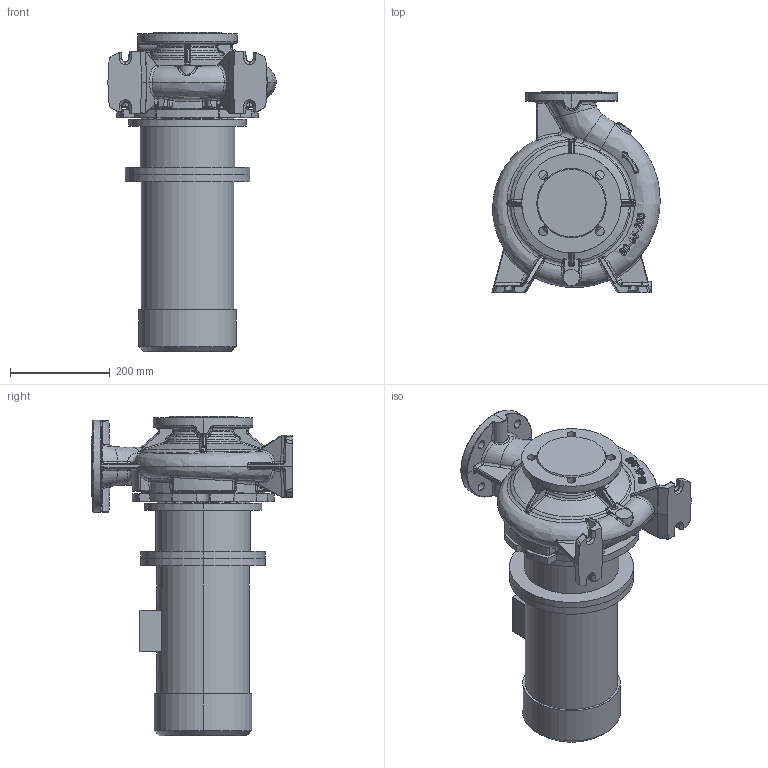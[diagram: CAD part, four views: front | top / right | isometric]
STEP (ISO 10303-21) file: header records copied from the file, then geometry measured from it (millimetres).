
FILE_DESCRIPTION (( 'STEP AP203' ), '1' );
FILE_NAME ('KRM 80-65-200-4-3.STEP', '2026-05-07T08:37:31', ( '' ), ( '' ), 'SwSTEP 2.0', 'SolidWorks 2016', '' );
FILE_SCHEMA (( 'CONFIG_CONTROL_DESIGN' ));
Length unit declared in the file: millimetre
Products named in the file (1): KRM 80-65-200-4-3
Bounding box: 338.13 x 405 x 641.3 mm (x, y, z)
Volume: 25152452.6 mm3; surface area: 1169005.8 mm2
Topology: 14 solids, 14 shells, 1152 faces, 2738 edges, 1620 vertices
Faces by surface type: bspline 552, cylinder 220, plane 200, torus 89, cone 76, sphere 15
Entity records: 71294 total; most frequent: CARTESIAN_POINT 48938, ORIENTED_EDGE 5440, DIRECTION 3583, EDGE_CURVE 2720, VERTEX_POINT 1620, AXIS2_PLACEMENT_3D 1491, EDGE_LOOP 1204, ADVANCED_FACE 1152
